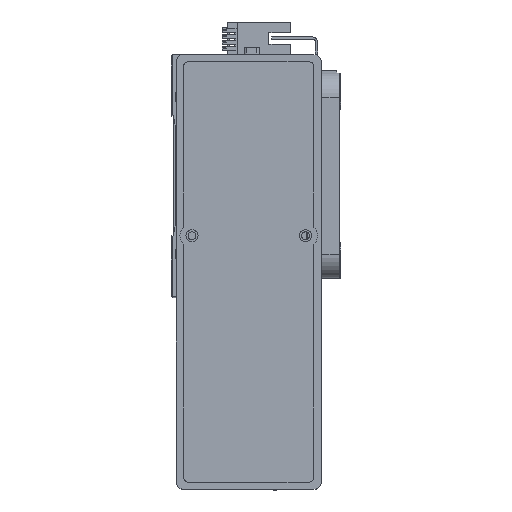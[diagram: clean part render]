
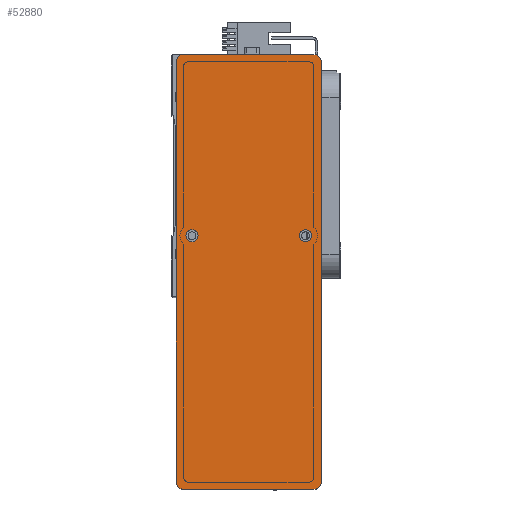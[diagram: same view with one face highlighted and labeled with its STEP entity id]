
A CAD part, top view. The second image highlights one B-rep face of the part: STEP entity #52880.
In plain terms, the highlighted planar face has unit normal (0, 0, 1) as drawn and (0, 0, -1) by its records, which use the part's own axes.
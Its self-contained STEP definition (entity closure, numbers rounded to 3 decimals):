
#1036 = FACE_OUTER_BOUND ( 'NONE', #36509, .T. ) ;
#1195 = CARTESIAN_POINT ( 'NONE',  ( 87., -30., 0. ) ) ;
#2405 = ORIENTED_EDGE ( 'NONE', *, *, #22225, .F. ) ;
#3723 = CIRCLE ( 'NONE', #5520, 2.5 ) ;
#3789 = CIRCLE ( 'NONE', #23868, 3. ) ;
#4099 = CARTESIAN_POINT ( 'NONE',  ( 90., -30., 0. ) ) ;
#5520 = AXIS2_PLACEMENT_3D ( 'NONE', #36793, #11466, #41026 ) ;
#5617 = EDGE_CURVE ( 'NONE', #32068, #17727, #19990, .T. ) ;
#5918 = DIRECTION ( 'NONE',  ( 0., -1., 0. ) ) ;
#5942 = VERTEX_POINT ( 'NONE', #21431 ) ;
#6612 = CIRCLE ( 'NONE', #33337, 2.5 ) ;
#7272 = EDGE_LOOP ( 'NONE', ( #29054, #7512 ) ) ;
#7512 = ORIENTED_EDGE ( 'NONE', *, *, #29731, .F. ) ;
#8328 = CARTESIAN_POINT ( 'NONE',  ( -15., 23.5, 0. ) ) ;
#8591 = CARTESIAN_POINT ( 'NONE',  ( 90., 27., 0. ) ) ;
#8883 = CARTESIAN_POINT ( 'NONE',  ( -87., -27., 0. ) ) ;
#10174 = CARTESIAN_POINT ( 'NONE',  ( -90., -30., 0. ) ) ;
#10237 = CARTESIAN_POINT ( 'NONE',  ( 90., -27., 0. ) ) ;
#10327 = EDGE_CURVE ( 'NONE', #48314, #15991, #46409, .T. ) ;
#10826 = PLANE ( 'NONE',  #21384 ) ;
#10983 = ORIENTED_EDGE ( 'NONE', *, *, #10327, .F. ) ;
#11433 = CIRCLE ( 'NONE', #15196, 3. ) ;
#11466 = DIRECTION ( 'NONE',  ( 0., 0., -1. ) ) ;
#12542 = DIRECTION ( 'NONE',  ( -1., 0., 0. ) ) ;
#12643 = VECTOR ( 'NONE', #5918, 1000. ) ;
#13002 = EDGE_CURVE ( 'NONE', #48314, #42114, #11433, .T. ) ;
#13098 = DIRECTION ( 'NONE',  ( 1., 0., 0. ) ) ;
#13322 = VERTEX_POINT ( 'NONE', #43266 ) ;
#13502 = CARTESIAN_POINT ( 'NONE',  ( -12.5, 23.5, 0. ) ) ;
#14980 = DIRECTION ( 'NONE',  ( 1., 0., 0. ) ) ;
#15196 = AXIS2_PLACEMENT_3D ( 'NONE', #20008, #49587, #24296 ) ;
#15874 = CARTESIAN_POINT ( 'NONE',  ( -90., -27., 0. ) ) ;
#15947 = EDGE_CURVE ( 'NONE', #32987, #5942, #3723, .T. ) ;
#15991 = VERTEX_POINT ( 'NONE', #15874 ) ;
#17147 = LINE ( 'NONE', #4099, #36969 ) ;
#17166 = CARTESIAN_POINT ( 'NONE',  ( -17.5, -23.5, 0. ) ) ;
#17602 = EDGE_CURVE ( 'NONE', #26739, #49754, #17147, .T. ) ;
#17727 = VERTEX_POINT ( 'NONE', #13502 ) ;
#17887 = CARTESIAN_POINT ( 'NONE',  ( 87., 27., 0. ) ) ;
#18392 = CARTESIAN_POINT ( 'NONE',  ( -90., 27., 0. ) ) ;
#18626 = CIRCLE ( 'NONE', #38101, 2.5 ) ;
#19327 = DIRECTION ( 'NONE',  ( 1., 0., 0. ) ) ;
#19557 = ORIENTED_EDGE ( 'NONE', *, *, #13002, .T. ) ;
#19883 = CARTESIAN_POINT ( 'NONE',  ( 87., -27., 0. ) ) ;
#19990 = CIRCLE ( 'NONE', #32327, 2.5 ) ;
#20008 = CARTESIAN_POINT ( 'NONE',  ( -87., 27., 0. ) ) ;
#20259 = ORIENTED_EDGE ( 'NONE', *, *, #15947, .F. ) ;
#20538 = DIRECTION ( 'NONE',  ( 0., 0., -1. ) ) ;
#20944 = DIRECTION ( 'NONE',  ( 0., 1., 0. ) ) ;
#21025 = AXIS2_PLACEMENT_3D ( 'NONE', #17887, #47449, #22163 ) ;
#21384 = AXIS2_PLACEMENT_3D ( 'NONE', #40400, #44646, #19327 ) ;
#21431 = CARTESIAN_POINT ( 'NONE',  ( -12.5, -23.5, 0. ) ) ;
#22163 = DIRECTION ( 'NONE',  ( 1., 0., 0. ) ) ;
#22225 = EDGE_CURVE ( 'NONE', #13322, #42114, #29485, .T. ) ;
#23158 = CIRCLE ( 'NONE', #43971, 3. ) ;
#23351 = CARTESIAN_POINT ( 'NONE',  ( -15., 23.5, 0. ) ) ;
#23368 = CARTESIAN_POINT ( 'NONE',  ( 90., -30., 0. ) ) ;
#23543 = FACE_BOUND ( 'NONE', #7272, .T. ) ;
#23868 = AXIS2_PLACEMENT_3D ( 'NONE', #8883, #38446, #13098 ) ;
#24167 = DIRECTION ( 'NONE',  ( 1., 0., 0. ) ) ;
#24296 = DIRECTION ( 'NONE',  ( 1., 0., 0. ) ) ;
#26353 = EDGE_CURVE ( 'NONE', #26739, #28652, #23158, .T. ) ;
#26731 = VECTOR ( 'NONE', #14980, 1000. ) ;
#26739 = VERTEX_POINT ( 'NONE', #10237 ) ;
#27594 = DIRECTION ( 'NONE',  ( -1., 0., 0. ) ) ;
#27615 = DIRECTION ( 'NONE',  ( -1., 0., 0. ) ) ;
#28652 = VERTEX_POINT ( 'NONE', #1195 ) ;
#28729 = EDGE_LOOP ( 'NONE', ( #20259, #47794 ) ) ;
#28793 = EDGE_CURVE ( 'NONE', #46377, #28652, #37928, .T. ) ;
#29054 = ORIENTED_EDGE ( 'NONE', *, *, #5617, .F. ) ;
#29485 = LINE ( 'NONE', #52917, #51982 ) ;
#29731 = EDGE_CURVE ( 'NONE', #17727, #32068, #6612, .T. ) ;
#32068 = VERTEX_POINT ( 'NONE', #47196 ) ;
#32321 = ORIENTED_EDGE ( 'NONE', *, *, #51897, .T. ) ;
#32327 = AXIS2_PLACEMENT_3D ( 'NONE', #23351, #52903, #27594 ) ;
#32426 = EDGE_CURVE ( 'NONE', #5942, #32987, #18626, .T. ) ;
#32987 = VERTEX_POINT ( 'NONE', #17166 ) ;
#33283 = CARTESIAN_POINT ( 'NONE',  ( -87., 30., 0. ) ) ;
#33337 = AXIS2_PLACEMENT_3D ( 'NONE', #8328, #37885, #12542 ) ;
#33408 = FACE_BOUND ( 'NONE', #28729, .T. ) ;
#33578 = CIRCLE ( 'NONE', #21025, 3. ) ;
#36509 = EDGE_LOOP ( 'NONE', ( #36644, #48465, #46251, #32321, #10983, #19557, #2405, #53376 ) ) ;
#36644 = ORIENTED_EDGE ( 'NONE', *, *, #17602, .F. ) ;
#36793 = CARTESIAN_POINT ( 'NONE',  ( -15., -23.5, 0. ) ) ;
#36969 = VECTOR ( 'NONE', #20944, 1000. ) ;
#37556 = EDGE_CURVE ( 'NONE', #13322, #49754, #33578, .T. ) ;
#37885 = DIRECTION ( 'NONE',  ( 0., 0., -1. ) ) ;
#37928 = LINE ( 'NONE', #23368, #26731 ) ;
#38101 = AXIS2_PLACEMENT_3D ( 'NONE', #45854, #20538, #50120 ) ;
#38446 = DIRECTION ( 'NONE',  ( 0., 0., -1. ) ) ;
#40400 = CARTESIAN_POINT ( 'NONE',  ( 0., 0., 0. ) ) ;
#41026 = DIRECTION ( 'NONE',  ( -1., 0., 0. ) ) ;
#42114 = VERTEX_POINT ( 'NONE', #33283 ) ;
#43266 = CARTESIAN_POINT ( 'NONE',  ( 87., 30., 0. ) ) ;
#43971 = AXIS2_PLACEMENT_3D ( 'NONE', #19883, #49467, #24167 ) ;
#44646 = DIRECTION ( 'NONE',  ( 0., 0., 1. ) ) ;
#45854 = CARTESIAN_POINT ( 'NONE',  ( -15., -23.5, 0. ) ) ;
#46251 = ORIENTED_EDGE ( 'NONE', *, *, #28793, .F. ) ;
#46377 = VERTEX_POINT ( 'NONE', #51126 ) ;
#46409 = LINE ( 'NONE', #10174, #12643 ) ;
#47196 = CARTESIAN_POINT ( 'NONE',  ( -17.5, 23.5, 0. ) ) ;
#47449 = DIRECTION ( 'NONE',  ( 0., 0., -1. ) ) ;
#47794 = ORIENTED_EDGE ( 'NONE', *, *, #32426, .F. ) ;
#48314 = VERTEX_POINT ( 'NONE', #18392 ) ;
#48465 = ORIENTED_EDGE ( 'NONE', *, *, #26353, .T. ) ;
#49467 = DIRECTION ( 'NONE',  ( 0., 0., -1. ) ) ;
#49587 = DIRECTION ( 'NONE',  ( 0., 0., -1. ) ) ;
#49754 = VERTEX_POINT ( 'NONE', #8591 ) ;
#50120 = DIRECTION ( 'NONE',  ( -1., 0., 0. ) ) ;
#51126 = CARTESIAN_POINT ( 'NONE',  ( -87., -30., 0. ) ) ;
#51897 = EDGE_CURVE ( 'NONE', #46377, #15991, #3789, .T. ) ;
#51982 = VECTOR ( 'NONE', #27615, 1000. ) ;
#52880 = ADVANCED_FACE ( 'NONE', ( #23543, #33408, #1036 ), #10826, .F. ) ;
#52903 = DIRECTION ( 'NONE',  ( 0., 0., -1. ) ) ;
#52917 = CARTESIAN_POINT ( 'NONE',  ( 90., 30., 0. ) ) ;
#53376 = ORIENTED_EDGE ( 'NONE', *, *, #37556, .T. ) ;
